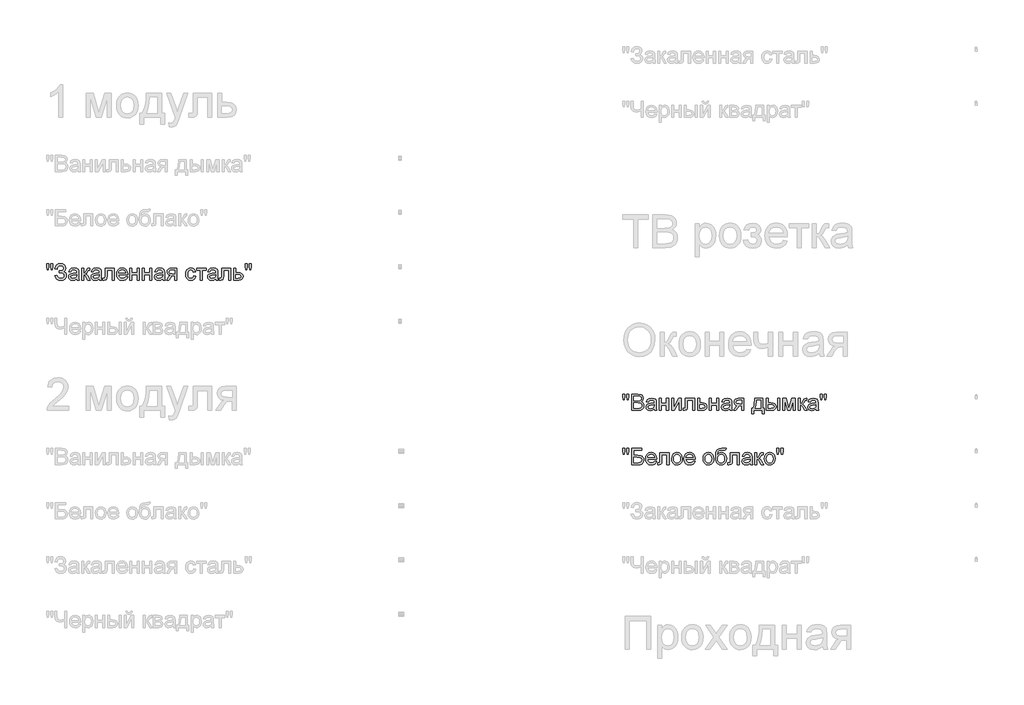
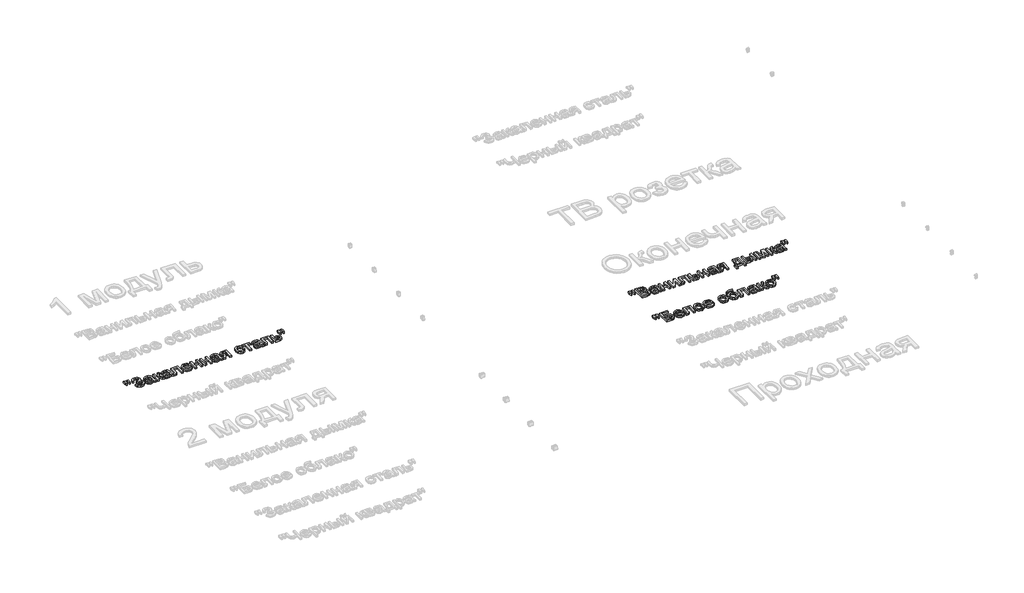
# One storey, part 27 of 168: 3 proxies.
"""IFC4 building model written with IfcOpenShell, lengths in millimetres."""

from ifc_helpers import new_model, si_unit, origin, origin_with_axes, place, context, project, spatial, polyline, outline, extrude, element, save

model = new_model("IFC4")

# Units and contexts
model_context = context("Model", 3, world=origin())
ifc_project = project(units=[si_unit("LENGTHUNIT", "METRE", prefix="MILLI")], contexts=[model_context])

# Site, building, storey
site = spatial("IfcSite", under=ifc_project)
building = spatial("IfcBuilding", under=site)
storey = spatial("IfcBuildingStorey", under=building, Name="Этаж 01", Elevation=0.0)

# Proxies
placement = place(None, origin())
element("IfcBuildingElementProxy", 1, Name="150", ObjectType="150", at=placement, inside=storey, context=model_context, shape_type="SweptSolid", body=[
    extrude(outline(polyline([(49080.1485789, -49970.3300622), (49075.550054, -49941.2305964), (49075.550054, -49916.1778325), (49094.3856121, -49916.1778325), (49094.3856121, -49941.2305964), (49090.2653338, -49970.3300622), (49080.1485789, -49970.3300622)])), origin_with_axes(), (0.0, 0.0, 1.0), 20.0),
    extrude(outline(polyline([(49117.7093306, -49970.3300622), (49113.2211703, -49941.2305964), (49113.2211703, -49916.1778325), (49132.0567284, -49916.1778325), (49132.0567284, -49941.2305964), (49127.6421445, -49970.3300622), (49117.7093306, -49970.3300622)])), origin_with_axes(), (0.0, 0.0, 1.0), 20.0),
    extrude(outline(polyline([(49150.8922866, -50024.4822919), (49169.7278447, -50019.7734024), (49181.2977335, -50040.172459), (49192.2284273, -50047.829003), (49206.2217387, -50050.3811843), (49220.398991, -50048.4635995), (49231.2193202, -50042.7108448), (49238.0757209, -50034.2449603), (49240.3611878, -50024.1879863), (49237.8641888, -50013.6527657), (49230.3731916, -50005.517975), (49218.5779752, -50000.3170433), (49203.1683181, -49998.5833994), (49193.2722924, -49998.5833994), (49193.2722924, -49979.7478413), (49214.591054, -49978.221131), (49227.6324708, -49970.4220327), (49233.2978535, -49956.1666054), (49231.4124583, -49947.2960508), (49225.7562726, -49939.6670979), (49216.8811195, -49934.4109839), (49205.3388219, -49932.6589459), (49186.1169876, -49938.0484171), (49175.117316, -49952.3406326), (49172.0822895, -49965.6211727), (49153.2467313, -49960.9122831), (49159.0983543, -49940.3108914), (49169.7002536, -49925.5956116), (49185.0524291, -49916.7664437), (49205.1548809, -49913.8233877), (49224.5468605, -49916.8814068), (49239.4598769, -49926.0554641), (49248.965028, -49939.3222085), (49252.1334117, -49954.6582892), (49247.2037929, -49973.3007093), (49232.4149367, -49987.2158458), (49242.8903765, -49992.0396984), (49251.5080123, -50000.1836861), (49257.2745625, -50010.948833), (49259.196746, -50023.6361633), (49255.508729, -50041.4738415), (49244.444678, -50056.1385376), (49227.2921799, -50065.9471913), (49205.3388219, -50069.2167425), (49186.2365493, -50066.4208393), (49170.7947025, -50058.0331298), (49159.0132816, -50044.053614), (49150.8922866, -50024.4822919)])), origin_with_axes(), (0.0, 0.0, 1.0), 20.0),
    extrude(outline(polyline([(49353.3745367, -50052.7356291), (49335.1091957, -50065.5011344), (49314.9308682, -50069.2167425), (49299.1901174, -50066.9818594), (49287.5788419, -50060.27721), (49280.4189386, -50050.0960758), (49278.0323041, -50037.4317381), (49281.6375477, -50022.5325173), (49291.110509, -50011.7167867), (49304.2990786, -50005.5363691), (49320.596251, -50002.7036778), (49353.2641721, -49996.2289547), (49353.3745367, -49992.0350999), (49352.0777527, -49983.6289963), (49348.1874006, -49978.1291605), (49339.4869914, -49974.0456704), (49327.3652797, -49972.684507), (49308.3089923, -49976.3081446), (49299.222307, -49989.1656204), (49280.3867489, -49986.8111756), (49288.5353351, -49968.4170758), (49304.9428721, -49957.6381334), (49329.7933008, -49953.8489488), (49352.6203786, -49957.196675), (49365.5146426, -49965.6027786), (49371.2903899, -49978.3866779), (49372.2100949, -49994.8677913), (49372.2100949, -50018.3018744), (49373.1665881, -50051.0249778), (49376.9189844, -50066.8622977), (49358.0834263, -50066.8622977), (49353.3745367, -50052.7356291)]), holes=[polyline([(49353.3745367, -50015.0645128), (49322.9874839, -50020.8402601), (49306.782282, -50023.8936807), (49299.4430362, -50028.8600876), (49296.8678623, -50036.1073629), (49302.4780627, -50046.2976942), (49318.940782, -50050.3811843), (49337.9970693, -50045.8746299), (49350.284328, -50034.9669288), (49353.2641721, -50020.3988017), (49353.3745367, -50015.0645128)])]), origin_with_axes(), (0.0, 0.0, 1.0), 20.0),
    extrude(outline(polyline([(49398.1089873, -49956.2033936), (49416.9445455, -49956.2033936), (49416.9445455, -50003.292289), (49429.5628979, -49999.9077746), (49439.900382, -49980.1892997), (49448.4904266, -49963.1747574), (49456.0687957, -49957.6381334), (49469.8459764, -49956.2033936), (49473.4512199, -49956.2033936), (49473.4512199, -49975.1493163), (49468.3744484, -49975.0389517), (49459.1773985, -49977.0255145), (49452.7026754, -49989.4231377), (49445.1059122, -50002.8324365), (49434.4557285, -50009.3991301), (49446.3383169, -50016.7291788), (49458.0001762, -50032.1710256), (49478.1601095, -50066.8622977), (49456.7493774, -50066.8622977), (49436.9941142, -50032.9067896), (49427.0613004, -50018.5409977), (49416.9445455, -50015.0645128), (49416.9445455, -50066.8622977), (49398.1089873, -50066.8622977), (49398.1089873, -49956.2033936)])), origin_with_axes(), (0.0, 0.0, 1.0), 20.0),
    extrude(outline(polyline([(49560.5656764, -50052.7356291), (49542.3003353, -50065.5011344), (49522.1220079, -50069.2167425), (49506.381257, -50066.9818594), (49494.7699816, -50060.27721), (49487.6100782, -50050.0960758), (49485.2234438, -50037.4317381), (49488.8286873, -50022.5325173), (49498.3016487, -50011.7167867), (49511.4902183, -50005.5363691), (49527.7873906, -50002.7036778), (49560.4553118, -49996.2289547), (49560.5656764, -49992.0350999), (49559.2688924, -49983.6289963), (49555.3785403, -49978.1291605), (49546.6781311, -49974.0456704), (49534.5564193, -49972.684507), (49515.500132, -49976.3081446), (49506.4134467, -49989.1656204), (49487.5778886, -49986.8111756), (49495.7264748, -49968.4170758), (49512.1340117, -49957.6381334), (49536.9844405, -49953.8489488), (49559.8115183, -49957.196675), (49572.7057822, -49965.6027786), (49578.4815296, -49978.3866779), (49579.4012346, -49994.8677913), (49579.4012346, -50018.3018744), (49580.3577277, -50051.0249778), (49584.1101241, -50066.8622977), (49565.2745659, -50066.8622977), (49560.5656764, -50052.7356291)]), holes=[polyline([(49560.5656764, -50015.0645128), (49530.1786236, -50020.8402601), (49513.9734217, -50023.8936807), (49506.6341759, -50028.8600876), (49504.0590019, -50036.1073629), (49509.6692024, -50046.2976942), (49526.1319217, -50050.3811843), (49545.188209, -50045.8746299), (49557.4754676, -50034.9669288), (49560.4553118, -50020.3988017), (49560.5656764, -50015.0645128)])]), origin_with_axes(), (0.0, 0.0, 1.0), 20.0),
    extrude(outline(polyline([(49614.7179061, -49956.2033936), (49699.4779178, -49956.2033936), (49699.4779178, -50066.7519331), (49680.6423596, -50066.7519331), (49680.6423596, -49975.0389517), (49633.5534643, -49975.0389517), (49633.5534643, -50027.830018), (49632.2842714, -50052.1838061), (49625.3129076, -50062.4661079), (49608.8317942, -50066.8622977), (49593.5279032, -50065.9058045), (49593.5279032, -50048.0267396), (49601.9524009, -50048.0267396), (49610.4688691, -50046.8679113), (49613.8717775, -50043.1890913), (49614.7179061, -50026.7631603), (49614.7179061, -49956.2033936)])), origin_with_axes(), (0.0, 0.0, 1.0), 20.0),
    extrude(outline(polyline([(49805.2072032, -50033.900071), (49823.6748794, -50036.2545157), (49817.0208138, -50050.1696522), (49806.4028197, -50060.5715156), (49792.0600204, -50067.0554358), (49774.2315392, -50069.2167425), (49752.1310283, -50065.4873388), (49735.1256831, -50054.2991276), (49724.2823613, -50036.3786759), (49720.6679207, -50012.4525506), (49724.3191495, -49987.7216835), (49735.2728359, -49969.2264162), (49752.0482549, -49957.6933157), (49773.1646814, -49953.8489488), (49793.6235189, -49957.6841186), (49809.971275, -49969.189628), (49820.6904367, -49987.6481071), (49824.2634906, -50012.342186), (49824.153126, -50017.4189576), (49739.5034789, -50017.4189576), (49742.763833, -50031.518035), (49750.3376036, -50041.8831103), (49761.2682974, -50048.2566658), (49774.5994212, -50050.3811843), (49793.0670974, -50046.444847), (49805.2072032, -50033.900071)]), holes=[polyline([(49739.5034789, -49998.5833994), (49805.4279324, -49998.5833994), (49802.8803496, -49988.6321915), (49797.8863515, -49981.5136749), (49786.9050739, -49974.8917989), (49773.091105, -49972.684507), (49760.3945777, -49974.445742), (49749.8961452, -49979.7294472), (49742.5982861, -49987.9654053), (49739.5034789, -49998.5833994)])]), origin_with_axes(), (0.0, 0.0, 1.0), 20.0),
    extrude(outline(polyline([(49843.0990487, -49956.2033936), (49861.9346069, -49956.2033936), (49861.9346069, -49998.5833994), (49911.377947, -49998.5833994), (49911.377947, -49956.2033936), (49930.2135052, -49956.2033936), (49930.2135052, -50066.8622977), (49911.377947, -50066.8622977), (49911.377947, -50017.4189576), (49861.9346069, -50017.4189576), (49861.9346069, -50066.8622977), (49843.0990487, -50066.8622977), (49843.0990487, -49956.2033936)])), origin_with_axes(), (0.0, 0.0, 1.0), 20.0),
    extrude(outline(polyline([(49958.4668424, -49956.2033936), (49977.3024005, -49956.2033936), (49977.3024005, -49998.5833994), (50026.7457407, -49998.5833994), (50026.7457407, -49956.2033936), (50045.5812988, -49956.2033936), (50045.5812988, -50066.8622977), (50026.7457407, -50066.8622977), (50026.7457407, -50017.4189576), (49977.3024005, -50017.4189576), (49977.3024005, -50066.8622977), (49958.4668424, -50066.8622977), (49958.4668424, -49956.2033936)])), origin_with_axes(), (0.0, 0.0, 1.0), 20.0),
    extrude(outline(polyline([(50144.4679792, -50052.7356291), (50126.2026381, -50065.5011344), (50106.0243107, -50069.2167425), (50090.2835598, -50066.9818594), (50078.6722843, -50060.27721), (50071.512381, -50050.0960758), (50069.1257465, -50037.4317381), (50072.7309901, -50022.5325173), (50082.2039515, -50011.7167867), (50095.392521, -50005.5363691), (50111.6896934, -50002.7036778), (50144.3576146, -49996.2289547), (50144.4679792, -49992.0350999), (50143.1711951, -49983.6289963), (50139.280843, -49978.1291605), (50130.5804338, -49974.0456704), (50118.4587221, -49972.684507), (50099.4024347, -49976.3081446), (50090.3157495, -49989.1656204), (50071.4801913, -49986.8111756), (50079.6287775, -49968.4170758), (50096.0363145, -49957.6381334), (50120.8867433, -49953.8489488), (50143.7138211, -49957.196675), (50156.608085, -49965.6027786), (50162.3838323, -49978.3866779), (50163.3035373, -49994.8677913), (50163.3035373, -50018.3018744), (50164.2600305, -50051.0249778), (50168.0124268, -50066.8622977), (50149.1768687, -50066.8622977), (50144.4679792, -50052.7356291)]), holes=[polyline([(50144.4679792, -50015.0645128), (50114.0809264, -50020.8402601), (50097.8757245, -50023.8936807), (50090.5364787, -50028.8600876), (50087.9613047, -50036.1073629), (50093.5715051, -50046.2976942), (50110.0342244, -50050.3811843), (50129.0905118, -50045.8746299), (50141.3777704, -50034.9669288), (50144.3576146, -50020.3988017), (50144.4679792, -50015.0645128)])]), origin_with_axes(), (0.0, 0.0, 1.0), 20.0),
    extrude(outline(polyline([(50273.9624415, -49956.2033936), (50273.9624415, -50066.8622977), (50255.1268833, -50066.8622977), (50255.1268833, -50024.4822919), (50244.8629756, -50024.4822919), (50230.8834598, -50026.8735249), (50217.7500726, -50042.949968), (50202.7404872, -50066.8622977), (50180.9618731, -50066.8622977), (50199.8710076, -50036.6223977), (50208.2219289, -50025.7698789), (50215.9106626, -50020.9506247), (50203.0347928, -50017.0050903), (50193.9848957, -50009.5094947), (50188.6322127, -49999.5398926), (50186.847985, -49988.172339), (50189.2852032, -49975.278075), (50196.5968579, -49965.0693497), (50208.5254316, -49958.4198826), (50224.8134069, -49956.2033936), (50273.9624415, -49956.2033936)]), holes=[polyline([(50255.1268833, -49975.0389517), (50230.2948486, -49975.0389517), (50217.4695626, -49976.1288021), (50210.1900976, -49979.3983534), (50205.6835431, -49989.6070787), (50207.3436107, -49996.7853762), (50212.3238132, -50001.7655787), (50235.8498668, -50005.6467337), (50255.1268833, -50005.6467337), (50255.1268833, -49975.0389517)])]), origin_with_axes(), (0.0, 0.0, 1.0), 20.0),
    extrude(outline(polyline([(50431.710241, -50026.8367367), (50450.5457991, -50029.1911814), (50445.2942837, -50045.9436078), (50435.4258491, -50058.6033469), (50421.8693976, -50066.5633936), (50405.5538311, -50069.2167425), (50385.518058, -50065.5149299), (50369.8508835, -50054.4094922), (50359.7387272, -50036.387873), (50356.3680084, -50011.9375159), (50357.8073467, -49995.1758924), (50362.1253616, -49980.6491522), (50369.391031, -49968.918315), (50379.6733328, -49960.5444011), (50391.974387, -49955.5228119), (50405.2963137, -49953.8489488), (50421.2118085, -49956.1482113), (50433.9359271, -49963.0459987), (50443.0639991, -49974.174429), (50448.1913544, -49989.1656204), (50429.3557962, -49991.5200651), (50420.6185988, -49977.4117906), (50405.4434665, -49972.684507), (50393.271171, -49975.0113606), (50383.6096701, -49981.9919214), (50377.3050924, -49994.0032686), (50375.2035665, -50011.4224811), (50377.2591072, -50029.0762183), (50383.4257291, -50041.1289522), (50392.9124861, -50048.0681263), (50404.9284317, -50050.3811843), (50414.6819031, -50048.9372475), (50422.678738, -50044.605437), (50428.4958721, -50037.2753883), (50431.710241, -50026.8367367)])), origin_with_axes(), (0.0, 0.0, 1.0), 20.0),
    extrude(outline(polyline([(50457.6091334, -49956.2033936), (50547.0780347, -49956.2033936), (50547.0780347, -49975.0389517), (50511.7613631, -49975.0389517), (50511.7613631, -50066.8622977), (50492.925805, -50066.8622977), (50492.925805, -49975.0389517), (50457.6091334, -49975.0389517), (50457.6091334, -49956.2033936)])), origin_with_axes(), (0.0, 0.0, 1.0), 20.0),
    extrude(outline(polyline([(50634.1924911, -50052.7356291), (50615.9271501, -50065.5011344), (50595.7488226, -50069.2167425), (50580.0080718, -50066.9818594), (50568.3967963, -50060.27721), (50561.236893, -50050.0960758), (50558.8502585, -50037.4317381), (50562.4555021, -50022.5325173), (50571.9284634, -50011.7167867), (50585.117033, -50005.5363691), (50601.4142054, -50002.7036778), (50634.0821265, -49996.2289547), (50634.1924911, -49992.0350999), (50632.8957071, -49983.6289963), (50629.005355, -49978.1291605), (50620.3049458, -49974.0456704), (50608.1832341, -49972.684507), (50589.1269467, -49976.3081446), (50580.0402614, -49989.1656204), (50561.2047033, -49986.8111756), (50569.3532895, -49968.4170758), (50585.7608265, -49957.6381334), (50610.6112552, -49953.8489488), (50633.438333, -49957.196675), (50646.332597, -49965.6027786), (50652.1083443, -49978.3866779), (50653.0280493, -49994.8677913), (50653.0280493, -50018.3018744), (50653.9845425, -50051.0249778), (50657.7369388, -50066.8622977), (50638.9013807, -50066.8622977), (50634.1924911, -50052.7356291)]), holes=[polyline([(50634.1924911, -50015.0645128), (50603.8054383, -50020.8402601), (50587.6002364, -50023.8936807), (50580.2609906, -50028.8600876), (50577.6858167, -50036.1073629), (50583.2960171, -50046.2976942), (50599.7587364, -50050.3811843), (50618.8150237, -50045.8746299), (50631.1022824, -50034.9669288), (50634.0821265, -50020.3988017), (50634.1924911, -50015.0645128)])]), origin_with_axes(), (0.0, 0.0, 1.0), 20.0),
    extrude(outline(polyline([(50688.3447208, -49956.2033936), (50773.1047325, -49956.2033936), (50773.1047325, -50066.7519331), (50754.2691744, -50066.7519331), (50754.2691744, -49975.0389517), (50707.180279, -49975.0389517), (50707.180279, -50027.830018), (50705.9110861, -50052.1838061), (50698.9397223, -50062.4661079), (50682.4586089, -50066.8622977), (50667.1547179, -50065.9058045), (50667.1547179, -50048.0267396), (50675.5792156, -50048.0267396), (50684.0956838, -50046.8679113), (50687.4985922, -50043.1890913), (50688.3447208, -50026.7631603), (50688.3447208, -49956.2033936)])), origin_with_axes(), (0.0, 0.0, 1.0), 20.0),
    extrude(outline(polyline([(50801.3580697, -49956.2033936), (50820.1936279, -49956.2033936), (50820.1936279, -49996.2289547), (50841.8986656, -49996.2289547), (50860.7158297, -49998.587998), (50874.6401632, -50005.6651278), (50883.2486019, -50016.8901272), (50886.1180814, -50031.692779), (50883.6762647, -50045.1710556), (50876.3508145, -50056.5432078), (50863.6542871, -50064.2825252), (50845.099239, -50066.8622977), (50801.3580697, -50066.8622977), (50801.3580697, -49956.2033936)]), holes=[polyline([(50820.1936279, -50048.0267396), (50837.7783873, -50048.0267396), (50860.4951005, -50044.0720081), (50865.5856676, -50039.0090322), (50867.2825233, -50031.7295672), (50862.260934, -50020.1412843), (50854.1905228, -50016.3337057), (50840.0224674, -50015.0645128), (50820.1936279, -50015.0645128), (50820.1936279, -50048.0267396)])]), origin_with_axes(), (0.0, 0.0, 1.0), 20.0),
    extrude(outline(polyline([(50909.5521645, -49970.3300622), (50904.9536396, -49941.2305964), (50904.9536396, -49916.1778325), (50923.7891977, -49916.1778325), (50923.7891977, -49941.2305964), (50919.6689194, -49970.3300622), (50909.5521645, -49970.3300622)])), origin_with_axes(), (0.0, 0.0, 1.0), 20.0),
    extrude(outline(polyline([(50947.1129162, -49970.3300622), (50942.6247559, -49941.2305964), (50942.6247559, -49916.1778325), (50961.460314, -49916.1778325), (50961.460314, -49941.2305964), (50957.0457301, -49970.3300622), (50947.1129162, -49970.3300622)])), origin_with_axes(), (0.0, 0.0, 1.0), 20.0),
])
element("IfcBuildingElementProxy", 2, Name="150", ObjectType="150", at=placement, inside=storey, context=model_context, shape_type="SweptSolid", body=[
    extrude(outline(polyline([(54389.7772739, -51170.3300622), (54385.178749, -51141.2305964), (54385.178749, -51116.1778325), (54404.0143071, -51116.1778325), (54404.0143071, -51141.2305964), (54399.8940288, -51170.3300622), (54389.7772739, -51170.3300622)])), origin_with_axes(), (0.0, 0.0, 1.0), 20.0),
    extrude(outline(polyline([(54427.3380256, -51170.3300622), (54422.8498653, -51141.2305964), (54422.8498653, -51116.1778325), (54441.6854234, -51116.1778325), (54441.6854234, -51141.2305964), (54437.2708395, -51170.3300622), (54427.3380256, -51170.3300622)])), origin_with_axes(), (0.0, 0.0, 1.0), 20.0),
    extrude(outline(polyline([(54467.5843159, -51266.8622977), (54467.5843159, -51116.1778325), (54525.0842718, -51116.1778325), (54553.2456385, -51120.6108106), (54562.7094028, -51126.2348066), (54569.8739047, -51134.2408385), (54575.8887753, -51153.517855), (54570.8303979, -51171.1210085), (54555.544901, -51184.4567308), (54566.2180773, -51190.030143), (54574.1045476, -51198.509823), (54578.9743855, -51209.3347507), (54580.5976648, -51221.9439061), (54576.1646868, -51242.19581), (54565.1834092, -51256.6167842), (54548.7942663, -51264.2687297), (54524.6428134, -51266.8622977), (54467.5843159, -51266.8622977)]), holes=[polyline([(54486.4198741, -51177.3933965), (54520.8168406, -51177.3933965), (54540.9031975, -51175.7747157), (54552.9881211, -51168.8033519), (54557.0532171, -51156.5344874), (54553.2640326, -51144.2472287), (54542.4115137, -51136.9815593), (54518.2048784, -51135.0133907), (54486.4198741, -51135.0133907), (54486.4198741, -51177.3933965)]), polyline([(54486.4198741, -51248.0267396), (54525.0474836, -51248.0267396), (54539.0269994, -51247.2909756), (54550.8544055, -51243.1890913), (54558.690292, -51234.819776), (54561.7621067, -51222.1278471), (54558.1568631, -51207.4861437), (54546.4766098, -51198.7489463), (54523.2080736, -51196.2289547), (54486.4198741, -51196.2289547), (54486.4198741, -51248.0267396)])]), origin_with_axes(), (0.0, 0.0, 1.0), 20.0),
    extrude(outline(polyline([(54674.7754556, -51252.7356291), (54656.5101145, -51265.5011344), (54636.3317871, -51269.2167425), (54620.5910362, -51266.9818594), (54608.9797608, -51260.27721), (54601.8198574, -51250.0960758), (54599.433223, -51237.4317381), (54603.0384665, -51222.5325173), (54612.5114279, -51211.7167867), (54625.6999974, -51205.5363691), (54641.9971698, -51202.7036778), (54674.665091, -51196.2289547), (54674.7754556, -51192.0350999), (54673.4786716, -51183.6289963), (54669.5883195, -51178.1291605), (54660.8879103, -51174.0456704), (54648.7661985, -51172.684507), (54629.7099112, -51176.3081446), (54620.6232259, -51189.1656204), (54601.7876677, -51186.8111756), (54609.9362539, -51168.4170758), (54626.3437909, -51157.6381334), (54651.1942197, -51153.8489488), (54674.0212975, -51157.196675), (54686.9155614, -51165.6027786), (54692.6913088, -51178.3866779), (54693.6110137, -51194.8677913), (54693.6110137, -51218.3018744), (54694.5675069, -51251.0249778), (54698.3199033, -51266.8622977), (54679.4843451, -51266.8622977), (54674.7754556, -51252.7356291)]), holes=[polyline([(54674.7754556, -51215.0645128), (54644.3884028, -51220.8402601), (54628.1832009, -51223.8936807), (54620.8439551, -51228.8600876), (54618.2687811, -51236.1073629), (54623.8789816, -51246.2976942), (54640.3417008, -51250.3811843), (54659.3979882, -51245.8746299), (54671.6852468, -51234.9669288), (54674.665091, -51220.3988017), (54674.7754556, -51215.0645128)])]), origin_with_axes(), (0.0, 0.0, 1.0), 20.0),
    extrude(outline(polyline([(54719.5099062, -51156.2033936), (54738.3454644, -51156.2033936), (54738.3454644, -51198.5833994), (54787.7888045, -51198.5833994), (54787.7888045, -51156.2033936), (54806.6243627, -51156.2033936), (54806.6243627, -51266.8622977), (54787.7888045, -51266.8622977), (54787.7888045, -51217.4189576), (54738.3454644, -51217.4189576), (54738.3454644, -51266.8622977), (54719.5099062, -51266.8622977), (54719.5099062, -51156.2033936)])), origin_with_axes(), (0.0, 0.0, 1.0), 20.0),
    extrude(outline(polyline([(54834.8776999, -51156.2033936), (54853.713258, -51156.2033936), (54853.713258, -51240.5955233), (54899.992813, -51156.2033936), (54924.3466011, -51156.2033936), (54924.3466011, -51266.8622977), (54905.511043, -51266.8622977), (54905.511043, -51182.9852028), (54859.5257936, -51266.8622977), (54834.8776999, -51266.8622977), (54834.8776999, -51156.2033936)])), origin_with_axes(), (0.0, 0.0, 1.0), 20.0),
    extrude(outline(polyline([(54962.0177174, -51156.2033936), (55046.7777291, -51156.2033936), (55046.7777291, -51266.7519331), (55027.942171, -51266.7519331), (55027.942171, -51175.0389517), (54980.8532756, -51175.0389517), (54980.8532756, -51227.830018), (54979.5840827, -51252.1838061), (54972.6127189, -51262.4661079), (54956.1316055, -51266.8622977), (54940.8277145, -51265.9058045), (54940.8277145, -51248.0267396), (54949.2522122, -51248.0267396), (54957.7686804, -51246.8679113), (54961.1715888, -51243.1890913), (54962.0177174, -51226.7631603), (54962.0177174, -51156.2033936)])), origin_with_axes(), (0.0, 0.0, 1.0), 20.0),
    extrude(outline(polyline([(55075.0310663, -51156.2033936), (55093.8666245, -51156.2033936), (55093.8666245, -51196.2289547), (55115.5716622, -51196.2289547), (55134.3888263, -51198.587998), (55148.3131598, -51205.6651278), (55156.9215985, -51216.8901272), (55159.791078, -51231.692779), (55157.3492613, -51245.1710556), (55150.0238111, -51256.5432078), (55137.3272837, -51264.2825252), (55118.7722356, -51266.8622977), (55075.0310663, -51266.8622977), (55075.0310663, -51156.2033936)]), holes=[polyline([(55093.8666245, -51248.0267396), (55111.4513839, -51248.0267396), (55134.1680971, -51244.0720081), (55139.2586642, -51239.0090322), (55140.9555199, -51231.7295672), (55135.9339306, -51220.1412843), (55127.8635194, -51216.3337057), (55113.695464, -51215.0645128), (55093.8666245, -51215.0645128), (55093.8666245, -51248.0267396)])]), origin_with_axes(), (0.0, 0.0, 1.0), 20.0),
    extrude(outline(polyline([(55183.3355257, -51156.2033936), (55202.1710839, -51156.2033936), (55202.1710839, -51198.5833994), (55251.614424, -51198.5833994), (55251.614424, -51156.2033936), (55270.4499822, -51156.2033936), (55270.4499822, -51266.8622977), (55251.614424, -51266.8622977), (55251.614424, -51217.4189576), (55202.1710839, -51217.4189576), (55202.1710839, -51266.8622977), (55183.3355257, -51266.8622977), (55183.3355257, -51156.2033936)])), origin_with_axes(), (0.0, 0.0, 1.0), 20.0),
    extrude(outline(polyline([(55369.3366625, -51252.7356291), (55351.0713214, -51265.5011344), (55330.892994, -51269.2167425), (55315.1522431, -51266.9818594), (55303.5409676, -51260.27721), (55296.3810643, -51250.0960758), (55293.9944299, -51237.4317381), (55297.5996734, -51222.5325173), (55307.0726348, -51211.7167867), (55320.2612043, -51205.5363691), (55336.5583767, -51202.7036778), (55369.2262979, -51196.2289547), (55369.3366625, -51192.0350999), (55368.0398785, -51183.6289963), (55364.1495264, -51178.1291605), (55355.4491172, -51174.0456704), (55343.3274054, -51172.684507), (55324.2711181, -51176.3081446), (55315.1844328, -51189.1656204), (55296.3488746, -51186.8111756), (55304.4974608, -51168.4170758), (55320.9049978, -51157.6381334), (55345.7554266, -51153.8489488), (55368.5825044, -51157.196675), (55381.4767683, -51165.6027786), (55387.2525157, -51178.3866779), (55388.1722206, -51194.8677913), (55388.1722206, -51218.3018744), (55389.1287138, -51251.0249778), (55392.8811102, -51266.8622977), (55374.045552, -51266.8622977), (55369.3366625, -51252.7356291)]), holes=[polyline([(55369.3366625, -51215.0645128), (55338.9496097, -51220.8402601), (55322.7444078, -51223.8936807), (55315.405162, -51228.8600876), (55312.829988, -51236.1073629), (55318.4401885, -51246.2976942), (55334.9029077, -51250.3811843), (55353.9591951, -51245.8746299), (55366.2464537, -51234.9669288), (55369.2262979, -51220.3988017), (55369.3366625, -51215.0645128)])]), origin_with_axes(), (0.0, 0.0, 1.0), 20.0),
    extrude(outline(polyline([(55498.8311248, -51156.2033936), (55498.8311248, -51266.8622977), (55479.9955666, -51266.8622977), (55479.9955666, -51224.4822919), (55469.731659, -51224.4822919), (55455.7521432, -51226.8735249), (55442.6187559, -51242.949968), (55427.6091705, -51266.8622977), (55405.8305564, -51266.8622977), (55424.739691, -51236.6223977), (55433.0906122, -51225.7698789), (55440.7793459, -51220.9506247), (55427.9034761, -51217.0050903), (55418.853579, -51209.5094947), (55413.500896, -51199.5398926), (55411.7166683, -51188.172339), (55414.1538865, -51175.278075), (55421.4655412, -51165.0693497), (55433.3941149, -51158.4198826), (55449.6820902, -51156.2033936), (55498.8311248, -51156.2033936)]), holes=[polyline([(55479.9955666, -51175.0389517), (55455.163532, -51175.0389517), (55442.3382459, -51176.1288021), (55435.0587809, -51179.3983534), (55430.5522265, -51189.6070787), (55432.212294, -51196.7853762), (55437.1924965, -51201.7655787), (55460.7185501, -51205.6467337), (55479.9955666, -51205.6467337), (55479.9955666, -51175.0389517)])]), origin_with_axes(), (0.0, 0.0, 1.0), 20.0),
    extrude(outline(polyline([(55602.4266946, -51156.2033936), (55673.0600377, -51156.2033936), (55673.0600377, -51248.0267396), (55687.1867063, -51248.0267396), (55687.1867063, -51297.4700797), (55668.3511482, -51297.4700797), (55668.3511482, -51266.8622977), (55590.6544708, -51266.8622977), (55590.6544708, -51297.4700797), (55571.8189126, -51297.4700797), (55571.8189126, -51248.0267396), (55583.5911365, -51248.0267396), (55592.1489914, -51232.5619002), (55598.1408694, -51212.1030628), (55602.4266946, -51156.2033936)]), holes=[polyline([(55618.907808, -51175.0389517), (55614.4932241, -51217.9523865), (55604.7811394, -51248.0267396), (55654.2244796, -51248.0267396), (55654.2244796, -51175.0389517), (55618.907808, -51175.0389517)])]), origin_with_axes(), (0.0, 0.0, 1.0), 20.0),
    extrude(outline(polyline([(55811.9722791, -51156.2033936), (55830.8078372, -51156.2033936), (55830.8078372, -51266.8622977), (55811.9722791, -51266.8622977), (55811.9722791, -51156.2033936)])), origin_with_axes(), (0.0, 0.0, 1.0), 20.0),
    extrude(outline(polyline([(55708.3767092, -51156.2033936), (55727.2122674, -51156.2033936), (55727.2122674, -51196.2289547), (55750.4991977, -51196.2289547), (55770.6269413, -51198.587998), (55785.5399577, -51205.6651278), (55794.7691973, -51216.8901272), (55797.8456105, -51231.692779), (55795.265838, -51245.1710556), (55787.5265205, -51256.5432078), (55774.1218203, -51264.2825252), (55754.5458996, -51266.8622977), (55708.3767092, -51266.8622977), (55708.3767092, -51156.2033936)]), holes=[polyline([(55727.2122674, -51248.0267396), (55746.5628603, -51248.0267396), (55771.5420478, -51244.0720081), (55777.1430512, -51239.0090322), (55779.0100523, -51231.7295672), (55773.4734283, -51220.1412843), (55764.5936766, -51216.3337057), (55749.0276697, -51215.0645128), (55727.2122674, -51215.0645128), (55727.2122674, -51248.0267396)])]), origin_with_axes(), (0.0, 0.0, 1.0), 20.0),
    extrude(outline(polyline([(55859.0611745, -51156.2033936), (55891.4715782, -51156.2033936), (55916.4507657, -51244.789378), (55943.3797278, -51156.2033936), (55974.4289682, -51156.2033936), (55974.4289682, -51266.8622977), (55955.59341, -51266.8622977), (55955.59341, -51177.7612785), (55928.5172952, -51266.8622977), (55903.7956251, -51266.8622977), (55877.8967326, -51173.4938474), (55877.8967326, -51266.8622977), (55859.0611745, -51266.8622977), (55859.0611745, -51156.2033936)])), origin_with_axes(), (0.0, 0.0, 1.0), 20.0),
    extrude(outline(polyline([(56002.6823054, -51156.2033936), (56021.5178635, -51156.2033936), (56021.5178635, -51203.292289), (56034.136216, -51199.9077746), (56044.4737, -51180.1892997), (56053.0637446, -51163.1747574), (56060.6421137, -51157.6381334), (56074.4192944, -51156.2033936), (56078.024538, -51156.2033936), (56078.024538, -51175.1493163), (56072.9477665, -51175.0389517), (56063.7507166, -51177.0255145), (56057.2759935, -51189.4231377), (56049.6792303, -51202.8324365), (56039.0290465, -51209.3991301), (56050.9116349, -51216.7291788), (56062.5734942, -51232.1710256), (56082.7334275, -51266.8622977), (56061.3226954, -51266.8622977), (56041.5674323, -51232.9067896), (56031.6346184, -51218.5409977), (56021.5178635, -51215.0645128), (56021.5178635, -51266.8622977), (56002.6823054, -51266.8622977), (56002.6823054, -51156.2033936)])), origin_with_axes(), (0.0, 0.0, 1.0), 20.0),
    extrude(outline(polyline([(56165.1389945, -51252.7356291), (56146.8736534, -51265.5011344), (56126.695326, -51269.2167425), (56110.9545751, -51266.9818594), (56099.3432996, -51260.27721), (56092.1833963, -51250.0960758), (56089.7967618, -51237.4317381), (56093.4020054, -51222.5325173), (56102.8749668, -51211.7167867), (56116.0635363, -51205.5363691), (56132.3607087, -51202.7036778), (56165.0286299, -51196.2289547), (56165.1389945, -51192.0350999), (56163.8422104, -51183.6289963), (56159.9518583, -51178.1291605), (56151.2514491, -51174.0456704), (56139.1297374, -51172.684507), (56120.07345, -51176.3081446), (56110.9867648, -51189.1656204), (56092.1512066, -51186.8111756), (56100.2997928, -51168.4170758), (56116.7073298, -51157.6381334), (56141.5577586, -51153.8489488), (56164.3848364, -51157.196675), (56177.2791003, -51165.6027786), (56183.0548476, -51178.3866779), (56183.9745526, -51194.8677913), (56183.9745526, -51218.3018744), (56184.9310458, -51251.0249778), (56188.6834421, -51266.8622977), (56169.847884, -51266.8622977), (56165.1389945, -51252.7356291)]), holes=[polyline([(56165.1389945, -51215.0645128), (56134.7519417, -51220.8402601), (56118.5467398, -51223.8936807), (56111.207494, -51228.8600876), (56108.63232, -51236.1073629), (56114.2425204, -51246.2976942), (56130.7052397, -51250.3811843), (56149.7615271, -51245.8746299), (56162.0487857, -51234.9669288), (56165.0286299, -51220.3988017), (56165.1389945, -51215.0645128)])]), origin_with_axes(), (0.0, 0.0, 1.0), 20.0),
    extrude(outline(polyline([(56209.7630805, -51170.3300622), (56205.1645555, -51141.2305964), (56205.1645555, -51116.1778325), (56224.0001137, -51116.1778325), (56224.0001137, -51141.2305964), (56219.8798353, -51170.3300622), (56209.7630805, -51170.3300622)])), origin_with_axes(), (0.0, 0.0, 1.0), 20.0),
    extrude(outline(polyline([(56247.3238322, -51170.3300622), (56242.8356718, -51141.2305964), (56242.8356718, -51116.1778325), (56261.67123, -51116.1778325), (56261.67123, -51141.2305964), (56257.256646, -51170.3300622), (56247.3238322, -51170.3300622)])), origin_with_axes(), (0.0, 0.0, 1.0), 20.0),
])
element("IfcBuildingElementProxy", 3, Name="150", ObjectType="150", at=placement, inside=storey, context=model_context, shape_type="SweptSolid", body=[
    extrude(outline(polyline([(54389.7772739, -51670.3300622), (54385.178749, -51641.2305964), (54385.178749, -51616.1778325), (54404.0143071, -51616.1778325), (54404.0143071, -51641.2305964), (54399.8940288, -51670.3300622), (54389.7772739, -51670.3300622)])), origin_with_axes(), (0.0, 0.0, 1.0), 20.0),
    extrude(outline(polyline([(54427.3380256, -51670.3300622), (54422.8498653, -51641.2305964), (54422.8498653, -51616.1778325), (54441.6854234, -51616.1778325), (54441.6854234, -51641.2305964), (54437.2708395, -51670.3300622), (54427.3380256, -51670.3300622)])), origin_with_axes(), (0.0, 0.0, 1.0), 20.0),
    extrude(outline(polyline([(54467.5843159, -51616.1778325), (54561.7621067, -51616.1778325), (54561.7621067, -51635.0133907), (54486.4198741, -51635.0133907), (54486.4198741, -51679.7478413), (54521.6997574, -51679.7478413), (54552.785786, -51683.573814), (54563.1876494, -51689.101241), (54571.2902503, -51698.0315764), (54576.5049776, -51709.5278888), (54578.2432201, -51722.7532465), (54573.2952072, -51744.2191609), (54558.5247451, -51760.5347274), (54545.2534021, -51765.2804052), (54525.0842718, -51766.8622977), (54467.5843159, -51766.8622977), (54467.5843159, -51616.1778325)]), holes=[polyline([(54486.4198741, -51748.0267396), (54526.7765289, -51748.0267396), (54541.0411533, -51746.4724382), (54551.2406816, -51741.8095339), (54557.3659168, -51734.0380267), (54559.4076619, -51723.1579167), (54554.7355606, -51708.4058487), (54541.730932, -51700.533174), (54513.3488361, -51698.5833994), (54486.4198741, -51698.5833994), (54486.4198741, -51748.0267396)])]), origin_with_axes(), (0.0, 0.0, 1.0), 20.0),
    extrude(outline(polyline([(54679.2636159, -51733.900071), (54697.7312921, -51736.2545157), (54691.0772265, -51750.1696522), (54680.4592324, -51760.5715156), (54666.1164331, -51767.0554358), (54648.2879519, -51769.2167425), (54626.1874411, -51765.4873388), (54609.1820959, -51754.2991276), (54598.338774, -51736.3786759), (54594.7243334, -51712.4525506), (54598.3755622, -51687.7216835), (54609.3292486, -51669.2264162), (54626.1046676, -51657.6933157), (54647.2210942, -51653.8489488), (54667.6799316, -51657.6841186), (54684.0276878, -51669.189628), (54694.7468494, -51687.6481071), (54698.3199033, -51712.342186), (54698.2095387, -51717.4189576), (54613.5598916, -51717.4189576), (54616.8202458, -51731.518035), (54624.3940164, -51741.8831103), (54635.3247101, -51748.2566658), (54648.6558339, -51750.3811843), (54667.1235101, -51746.444847), (54679.2636159, -51733.900071)]), holes=[polyline([(54613.5598916, -51698.5833994), (54679.4843451, -51698.5833994), (54676.9367623, -51688.6321915), (54671.9427642, -51681.5136749), (54660.9614867, -51674.8917989), (54647.1475178, -51672.684507), (54634.4509904, -51674.445742), (54623.952558, -51679.7294472), (54616.6546989, -51687.9654053), (54613.5598916, -51698.5833994)])]), origin_with_axes(), (0.0, 0.0, 1.0), 20.0),
    extrude(outline(polyline([(54726.5732405, -51656.2033936), (54811.3332522, -51656.2033936), (54811.3332522, -51766.7519331), (54792.497694, -51766.7519331), (54792.497694, -51675.0389517), (54745.4087987, -51675.0389517), (54745.4087987, -51727.830018), (54744.1396058, -51752.1838061), (54737.168242, -51762.4661079), (54720.6871286, -51766.8622977), (54705.3832376, -51765.9058045), (54705.3832376, -51748.0267396), (54713.8077353, -51748.0267396), (54722.3242035, -51746.8679113), (54725.7271119, -51743.1890913), (54726.5732405, -51726.7631603), (54726.5732405, -51656.2033936)])), origin_with_axes(), (0.0, 0.0, 1.0), 20.0),
    extrude(outline(polyline([(54834.8776999, -51711.5328457), (54838.951993, -51684.852204), (54851.1748723, -51666.0994193), (54866.2764282, -51656.9115664), (54884.3578282, -51653.8489488), (54904.1452811, -51657.5783525), (54919.9504113, -51668.7665637), (54930.310888, -51686.5306656), (54933.7643802, -51709.9877413), (54932.2376699, -51729.0164375), (54927.6575391, -51743.501791), (54920.1573449, -51754.3497114), (54909.8704446, -51762.4661079), (54897.6521638, -51767.5290839), (54884.3578282, -51769.2167425), (54864.3312521, -51765.5011344), (54848.544516, -51754.3543099), (54838.2944039, -51736.2177275), (54834.8776999, -51711.5328457)]), holes=[polyline([(54853.713258, -51711.4960575), (54855.8929589, -51728.5427894), (54862.4320613, -51740.6874938), (54872.2729047, -51747.9577617), (54884.3578282, -51750.3811843), (54896.3875695, -51747.9439661), (54906.2100188, -51740.6323115), (54912.7491212, -51728.3266587), (54914.928822, -51710.9074463), (54912.7353256, -51694.357355), (54906.1548365, -51682.3781975), (54896.3185916, -51675.1079296), (54884.3578282, -51672.684507), (54872.2729047, -51675.0987326), (54862.4320613, -51682.3414093), (54855.8929589, -51694.4585226), (54853.713258, -51711.4960575)])]), origin_with_axes(), (0.0, 0.0, 1.0), 20.0),
    extrude(outline(polyline([(55032.4303313, -51733.900071), (55050.8980075, -51736.2545157), (55044.2439419, -51750.1696522), (55033.6259478, -51760.5715156), (55019.2831485, -51767.0554358), (55001.4546673, -51769.2167425), (54979.3541564, -51765.4873388), (54962.3488112, -51754.2991276), (54951.5054894, -51736.3786759), (54947.8910488, -51712.4525506), (54951.5422776, -51687.7216835), (54962.495964, -51669.2264162), (54979.271383, -51657.6933157), (55000.3878095, -51653.8489488), (55020.846647, -51657.6841186), (55037.1944031, -51669.189628), (55047.9135648, -51687.6481071), (55051.4866187, -51712.342186), (55051.3762541, -51717.4189576), (54966.726607, -51717.4189576), (54969.9869611, -51731.518035), (54977.5607317, -51741.8831103), (54988.4914255, -51748.2566658), (55001.8225493, -51750.3811843), (55020.2902255, -51746.444847), (55032.4303313, -51733.900071)]), holes=[polyline([(54966.726607, -51698.5833994), (55032.6510605, -51698.5833994), (55030.1034777, -51688.6321915), (55025.1094796, -51681.5136749), (55014.128202, -51674.8917989), (55000.3142331, -51672.684507), (54987.6177058, -51674.445742), (54977.1192733, -51679.7294472), (54969.8214142, -51687.9654053), (54966.726607, -51698.5833994)])]), origin_with_axes(), (0.0, 0.0, 1.0), 20.0),
    extrude(outline(polyline([(55124.4744065, -51711.5328457), (55128.5486996, -51684.852204), (55140.7715789, -51666.0994193), (55155.8731348, -51656.9115664), (55173.9545348, -51653.8489488), (55193.7419877, -51657.5783525), (55209.5471179, -51668.7665637), (55219.9075946, -51686.5306656), (55223.3610868, -51709.9877413), (55221.8343765, -51729.0164375), (55217.2542457, -51743.501791), (55209.7540515, -51754.3497114), (55199.4671512, -51762.4661079), (55187.2488704, -51767.5290839), (55173.9545348, -51769.2167425), (55153.9279587, -51765.5011344), (55138.1412226, -51754.3543099), (55127.8911105, -51736.2177275), (55124.4744065, -51711.5328457)]), holes=[polyline([(55143.3099646, -51711.4960575), (55145.4896655, -51728.5427894), (55152.0287679, -51740.6874938), (55161.8696113, -51747.9577617), (55173.9545348, -51750.3811843), (55185.9842761, -51747.9439661), (55195.8067254, -51740.6323115), (55202.3458278, -51728.3266587), (55204.5255286, -51710.9074463), (55202.3320323, -51694.357355), (55195.7515431, -51682.3781975), (55185.9152982, -51675.1079296), (55173.9545348, -51672.684507), (55161.8696113, -51675.0987326), (55152.0287679, -51682.3414093), (55145.4896655, -51694.4585226), (55143.3099646, -51711.4960575)])]), origin_with_axes(), (0.0, 0.0, 1.0), 20.0),
    extrude(outline(polyline([(55322.2477671, -51613.8233877), (55338.7288805, -51613.8233877), (55333.8728382, -51628.5202734), (55324.2711181, -51633.8361683), (55301.204917, -51635.0133907), (55270.1372825, -51639.3543982), (55263.0095688, -51645.0013868), (55258.2179058, -51653.2603376), (55254.189598, -51677.8716431), (55270.5051645, -51659.8454253), (55280.4241828, -51655.3480679), (55291.5296205, -51653.8489488), (55311.1285338, -51657.661126), (55327.030233, -51669.0976575), (55337.5700522, -51687.0365033), (55341.0833253, -51710.3556233), (55339.3404843, -51728.3358558), (55334.1119614, -51742.766027), (55317.5756658, -51762.3189551), (55306.2816885, -51767.4922957), (55291.5296205, -51769.2167425), (55274.5288738, -51766.995655), (55261.7863612, -51760.3323923), (55252.4099688, -51750.2064404), (55245.5075829, -51737.597285), (55241.2585459, -51718.6099755), (55239.8422002, -51689.3495614), (55243.4152541, -51653.2097538), (55254.1344157, -51631.1690238), (55272.2663995, -51619.9256303), (55298.07792, -51616.1778325), (55319.0471937, -51615.7547682), (55322.2477671, -51613.8233877)]), holes=[polyline([(55322.2477671, -51709.7670121), (55320.206022, -51694.9459662), (55314.0807868, -51683.0771733), (55304.2399434, -51675.2826736), (55291.0513739, -51672.684507), (55277.3017843, -51675.4298264), (55267.102256, -51683.6657845), (55260.7838828, -51696.4910706), (55258.6777583, -51713.0043736), (55261.004612, -51729.011839), (55267.9851728, -51740.7610702), (55278.3778392, -51747.9761558), (55290.9410093, -51750.3811843), (55303.5685588, -51747.5990768), (55313.565752, -51739.252754), (55320.0772633, -51726.3171033), (55322.2477671, -51709.7670121)])]), origin_with_axes(), (0.0, 0.0, 1.0), 20.0),
    extrude(outline(polyline([(55374.045552, -51656.2033936), (55458.8055637, -51656.2033936), (55458.8055637, -51766.7519331), (55439.9700056, -51766.7519331), (55439.9700056, -51675.0389517), (55392.8811102, -51675.0389517), (55392.8811102, -51727.830018), (55391.6119173, -51752.1838061), (55384.6405535, -51762.4661079), (55368.1594401, -51766.8622977), (55352.8555491, -51765.9058045), (55352.8555491, -51748.0267396), (55361.2800468, -51748.0267396), (55369.796515, -51746.8679113), (55373.1994234, -51743.1890913), (55374.045552, -51726.7631603), (55374.045552, -51656.2033936)])), origin_with_axes(), (0.0, 0.0, 1.0), 20.0),
    extrude(outline(polyline([(55557.692244, -51752.7356291), (55539.426903, -51765.5011344), (55519.2485755, -51769.2167425), (55503.5078247, -51766.9818594), (55491.8965492, -51760.27721), (55484.7366458, -51750.0960758), (55482.3500114, -51737.4317381), (55485.955255, -51722.5325173), (55495.4282163, -51711.7167867), (55508.6167859, -51705.5363691), (55524.9139582, -51702.7036778), (55557.5818794, -51696.2289547), (55557.692244, -51692.0350999), (55556.39546, -51683.6289963), (55552.5051079, -51678.1291605), (55543.8046987, -51674.0456704), (55531.682987, -51672.684507), (55512.6266996, -51676.3081446), (55503.5400143, -51689.1656204), (55484.7044562, -51686.8111756), (55492.8530424, -51668.4170758), (55509.2605794, -51657.6381334), (55534.1110081, -51653.8489488), (55556.9380859, -51657.196675), (55569.8323499, -51665.6027786), (55575.6080972, -51678.3866779), (55576.5278022, -51694.8677913), (55576.5278022, -51718.3018744), (55577.4842954, -51751.0249778), (55581.2366917, -51766.8622977), (55562.4011336, -51766.8622977), (55557.692244, -51752.7356291)]), holes=[polyline([(55557.692244, -51715.0645128), (55527.3051912, -51720.8402601), (55511.0999893, -51723.8936807), (55503.7607435, -51728.8600876), (55501.1855696, -51736.1073629), (55506.79577, -51746.2976942), (55523.2584893, -51750.3811843), (55542.3147766, -51745.8746299), (55554.6020353, -51734.9669288), (55557.5818794, -51720.3988017), (55557.692244, -51715.0645128)])]), origin_with_axes(), (0.0, 0.0, 1.0), 20.0),
    extrude(outline(polyline([(55602.4266946, -51656.2033936), (55621.2622528, -51656.2033936), (55621.2622528, -51703.292289), (55633.8806052, -51699.9077746), (55644.2180893, -51680.1892997), (55652.8081339, -51663.1747574), (55660.386503, -51657.6381334), (55674.1636837, -51656.2033936), (55677.7689272, -51656.2033936), (55677.7689272, -51675.1493163), (55672.6921557, -51675.0389517), (55663.4951058, -51677.0255145), (55657.0203827, -51689.4231377), (55649.4236195, -51702.8324365), (55638.7734358, -51709.3991301), (55650.6560242, -51716.7291788), (55662.3178834, -51732.1710256), (55682.4778168, -51766.8622977), (55661.0670847, -51766.8622977), (55641.3118215, -51732.9067896), (55631.3790077, -51718.5409977), (55621.2622528, -51715.0645128), (55621.2622528, -51766.8622977), (55602.4266946, -51766.8622977), (55602.4266946, -51656.2033936)])), origin_with_axes(), (0.0, 0.0, 1.0), 20.0),
    extrude(outline(polyline([(55689.5411511, -51711.5328457), (55693.6154442, -51684.852204), (55705.8383235, -51666.0994193), (55720.9398794, -51656.9115664), (55739.0212794, -51653.8489488), (55758.8087323, -51657.5783525), (55774.6138625, -51668.7665637), (55784.9743392, -51686.5306656), (55788.4278314, -51709.9877413), (55786.9011211, -51729.0164375), (55782.3209903, -51743.501791), (55774.8207961, -51754.3497114), (55764.5338958, -51762.4661079), (55752.315615, -51767.5290839), (55739.0212794, -51769.2167425), (55718.9947033, -51765.5011344), (55703.2079672, -51754.3543099), (55692.9578551, -51736.2177275), (55689.5411511, -51711.5328457)]), holes=[polyline([(55708.3767092, -51711.4960575), (55710.5564101, -51728.5427894), (55717.0955125, -51740.6874938), (55726.9363559, -51747.9577617), (55739.0212794, -51750.3811843), (55751.0510207, -51747.9439661), (55760.87347, -51740.6323115), (55767.4125724, -51728.3266587), (55769.5922732, -51710.9074463), (55767.3987768, -51694.357355), (55760.8182877, -51682.3781975), (55750.9820428, -51675.1079296), (55739.0212794, -51672.684507), (55726.9363559, -51675.0987326), (55717.0955125, -51682.3414093), (55710.5564101, -51694.4585226), (55708.3767092, -51711.4960575)])]), origin_with_axes(), (0.0, 0.0, 1.0), 20.0),
    extrude(outline(polyline([(55809.5074697, -51670.3300622), (55804.9089448, -51641.2305964), (55804.9089448, -51616.1778325), (55823.7445029, -51616.1778325), (55823.7445029, -51641.2305964), (55819.6242246, -51670.3300622), (55809.5074697, -51670.3300622)])), origin_with_axes(), (0.0, 0.0, 1.0), 20.0),
    extrude(outline(polyline([(55847.0682214, -51670.3300622), (55842.5800611, -51641.2305964), (55842.5800611, -51616.1778325), (55861.4156192, -51616.1778325), (55861.4156192, -51641.2305964), (55857.0010353, -51670.3300622), (55847.0682214, -51670.3300622)])), origin_with_axes(), (0.0, 0.0, 1.0), 20.0),
])

save(model, "model.ifc")
